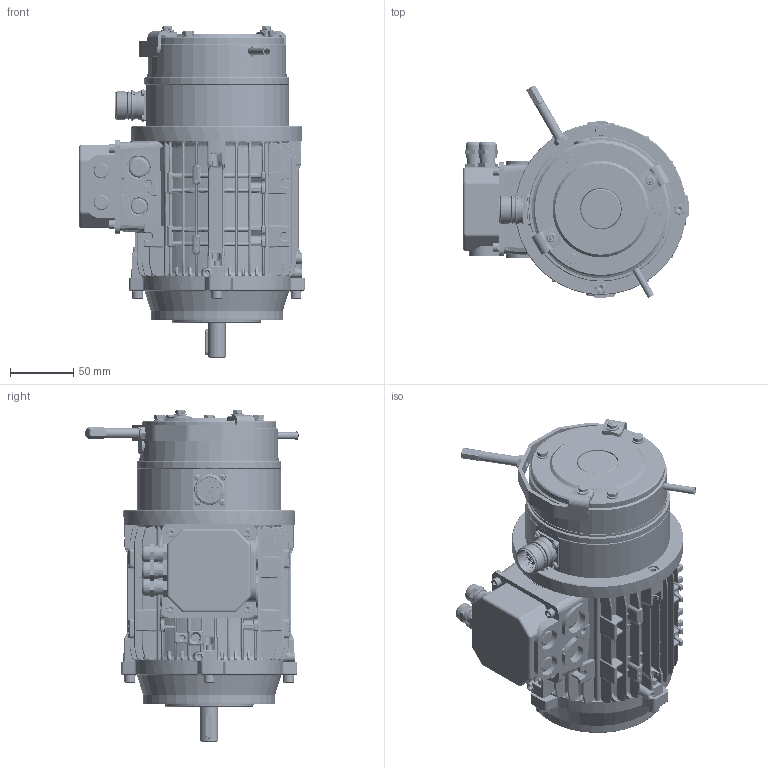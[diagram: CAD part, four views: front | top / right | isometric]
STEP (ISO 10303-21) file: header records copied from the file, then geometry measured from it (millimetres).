
FILE_DESCRIPTION(/* description */ (''),/* implementation_level */ '2;1');
FILE_NAME(/* name */ 'Z:\UTM\Sito\PMAC\BL-B14.71-P10.stp',/* time_stamp */ '2023-05-08T12:03:41+02:00',/* author */ ('cad3'),/* organization */ (''),/* preprocessor_version */ 'ST-DEVELOPER v18.1',/* originating_system */ 'Autodesk Inventor 2022',/* authorisation */ '');
FILE_SCHEMA (('AUTOMOTIVE_DESIGN { 1 0 10303 214 3 1 1 }'));
Products named in the file (1): BL-B14.71-P10
Bounding box: 178 x 168.14 x 261.7 mm (x, y, z)
Volume: 941959.9 mm3; surface area: 444803.3 mm2
Topology: 3 solids, 28 shells, 8748 faces, 21823 edges, 13045 vertices
Faces by surface type: plane 3059, bspline 2580, cylinder 1762, cone 630, sphere 399, torus 318
Full cylindrical faces by diameter (mm): 0.9 x12, 2 x9, 2.9 x8, 3 x7, 3.15 x1, 3.2 x8, 3.242 x13, 4 x8, 4.134 x9, 4.2 x2, 4.3 x10, 4.5 x13, 4.917 x4, 5 x22, 5.2 x21, 5.5 x9, 6 x5, 6.4 x1, 6.88 x3, 6.917 x3, 7 x7, 7.1 x1, 7.5 x6, 7.8 x1, 8 x2, 8.4 x1, 8.5 x15, 9 x16, 10 x5, 12 x8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
Entity records: 370583 total; most frequent: CARTESIAN_POINT 166616, ORIENTED_EDGE 43522, DIRECTION 38634, EDGE_CURVE 21761, AXIS2_PLACEMENT_3D 15312, VERTEX_POINT 13043, EDGE_LOOP 9258, STYLED_ITEM 8751
